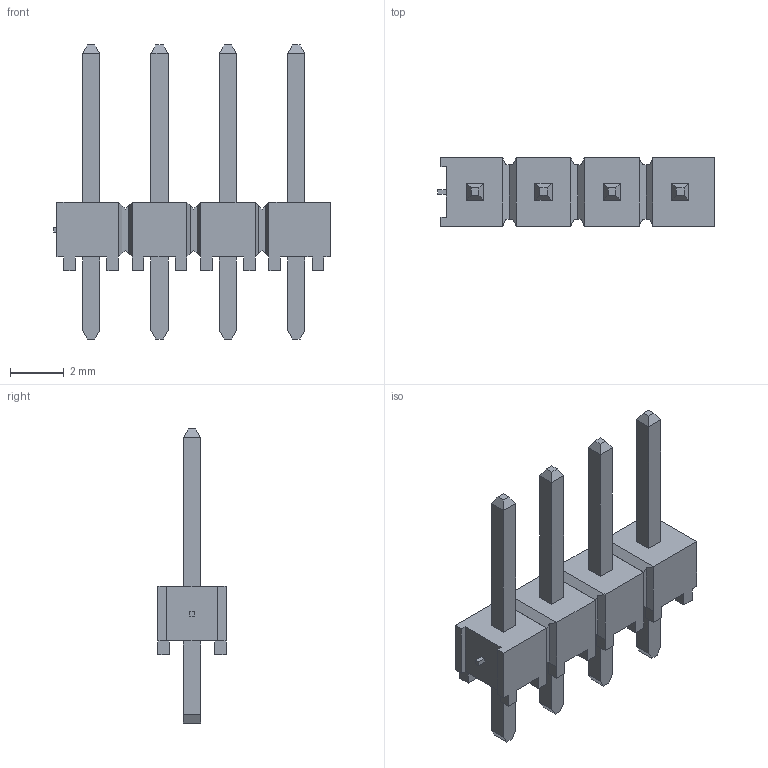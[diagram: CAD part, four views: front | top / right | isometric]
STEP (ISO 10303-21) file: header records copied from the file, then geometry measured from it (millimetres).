
FILE_DESCRIPTION(('FreeCAD Model'),'2;1');
FILE_NAME('C:/Users/cr185092/Documents/KiCAD_Projects/VORON_V2.0_Expander_option2/VORON_V2.0.pretty/3D_Models\PIN_HEADER_TOP_1X4.step', '2017-11-19T12:23:00',('kicad StepUp'),('ksu MCAD'), 'Open CASCADE STEP processor 6.8','FreeCAD','Unknown');
FILE_SCHEMA(('AUTOMOTIVE_DESIGN_CC2 { 1 2 10303 214 -1 1 5 4 }'));
Length unit declared in the file: millimetre
Products named in the file (1): PIN_HEADER_TOP_1X4
Bounding box: 10.29 x 2.54 x 10.92 mm (x, y, z)
Volume: 65.2 mm3; surface area: 209.4 mm2
Topology: 1 solids, 1 shells, 185 faces, 470 edges, 296 vertices
Faces by surface type: plane 185
Entity records: 6696 total; most frequent: CARTESIAN_POINT 952, ORIENTED_EDGE 940, DIRECTION 842, EDGE_CURVE 470, LINE 470, VECTOR 470, VERTEX_POINT 296, FACE_BOUND 194
